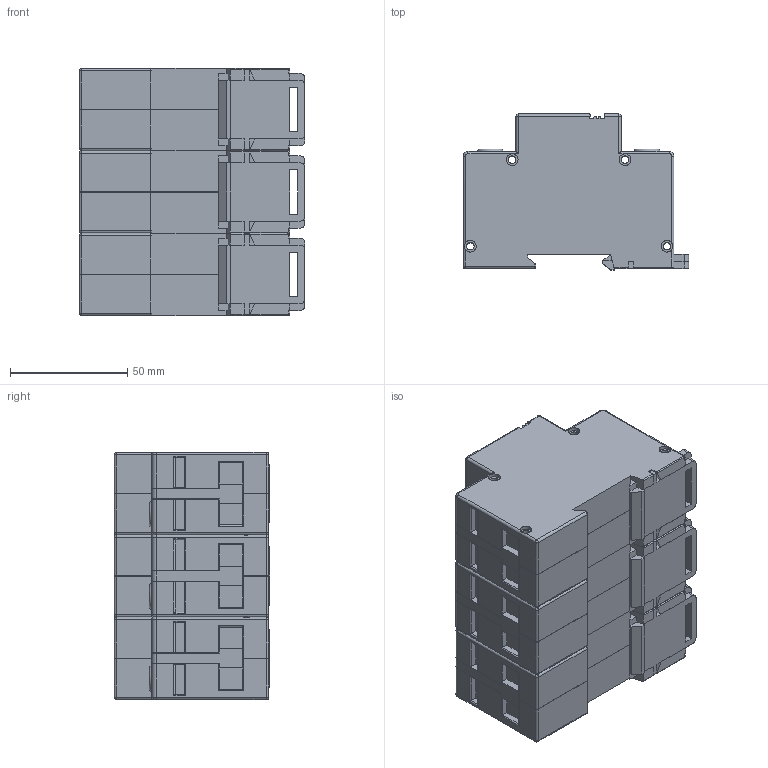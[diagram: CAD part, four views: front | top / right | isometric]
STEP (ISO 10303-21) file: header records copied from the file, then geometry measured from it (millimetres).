
FILE_DESCRIPTION(/* description */ (''),/* implementation_level */ '2;1');
FILE_NAME(/* name */ 'K:\PROJEKTY ROZPRACOVANÉ\MODELY DO KATALOGU\HS\3D - STEP\HLA50 3+0.stp',/* time_stamp */ '2020-03-24T16:12:22+01:00',/* author */ ('M Koliska'),/* organization */ (''),/* preprocessor_version */ 'ST-DEVELOPER v18',/* originating_system */ 'Autodesk Inventor 2020',/* authorisation */ '');
FILE_SCHEMA (('AUTOMOTIVE_DESIGN { 1 0 10303 214 3 1 1 }'));
Length unit declared in the file: millimetre
Products named in the file (4): HS50-50 3+0; HS 4.; HS 2.,3.; DIN 7985 (H) - M6x10-H
Assembly tree (8 placements, depth 2):
  HS50-50 3+0
    HS 4.  x2
    HS 2.,3.
    DIN 7985 (H) - M6x10-H  x5
Bounding box: 96.3 x 66.5 x 105.6 mm (x, y, z)
Volume: 523219 mm3; surface area: 78131.6 mm2
Topology: 8 solids, 11 shells, 1308 faces, 3577 edges, 2275 vertices
Faces by surface type: plane 873, cylinder 296, cone 80, bspline 24, sphere 23, torus 12
Full cylindrical faces by diameter (mm): 3.2 x12, 5 x24, 5.5 x5, 6 x5, 8 x5
Entity records: 24846 total; most frequent: CARTESIAN_POINT 4529, ORIENTED_EDGE 4268, DIRECTION 4153, EDGE_CURVE 2134, LINE 1609, VECTOR 1609, VERTEX_POINT 1348, AXIS2_PLACEMENT_3D 1272
